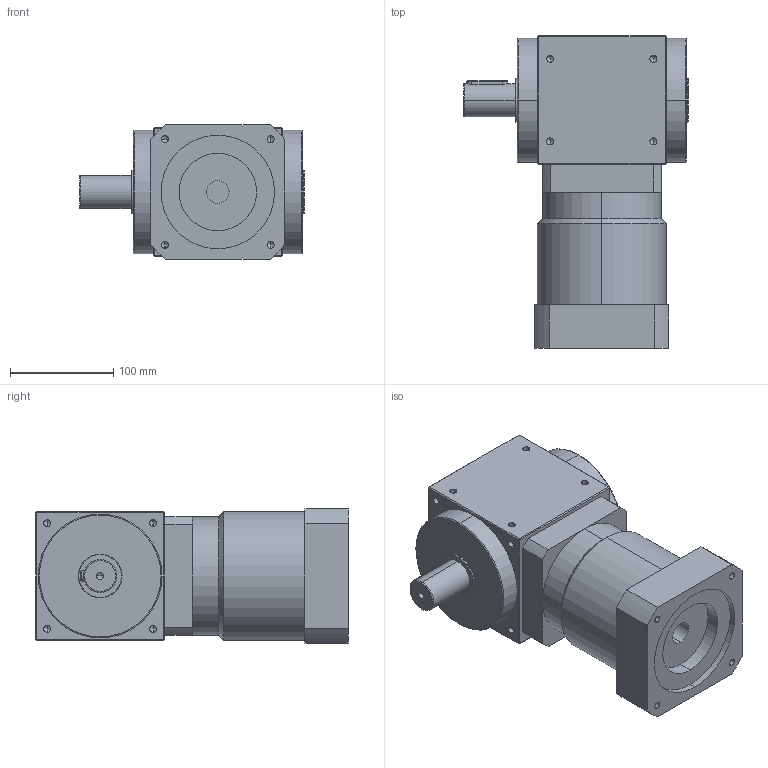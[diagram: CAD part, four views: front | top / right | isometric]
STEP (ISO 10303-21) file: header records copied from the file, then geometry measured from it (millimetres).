
FILE_DESCRIPTION (( 'STEP AP214' ), '1' );
FILE_NAME ('PAW125A-L2-P(12-100) 22-110-145-M8.STEP', '2020-12-07T02:28:58', ( '微软用户' ), ( '微软中国' ), 'SwSTEP 2.0', 'SolidWorks 2014', '' );
FILE_SCHEMA (( 'AUTOMOTIVE_DESIGN' ));
Length unit declared in the file: millimetre
Products named in the file (2): PAW125A-L2-P(12-100) 22-110-145-M8
Bounding box: 218 x 303 x 130 mm (x, y, z)
Volume: 4623810.1 mm3; surface area: 217260.3 mm2
Topology: 1 solids, 1 shells, 197 faces, 478 edges, 261 vertices
Faces by surface type: cylinder 80, cone 58, plane 53, torus 6
Entity records: 7690 total; most frequent: CARTESIAN_POINT 1046, DIRECTION 994, ORIENTED_EDGE 856, EDGE_CURVE 428, AXIS2_PLACEMENT_3D 385, VERTEX_POINT 261, EDGE_LOOP 233, VECTOR 224
